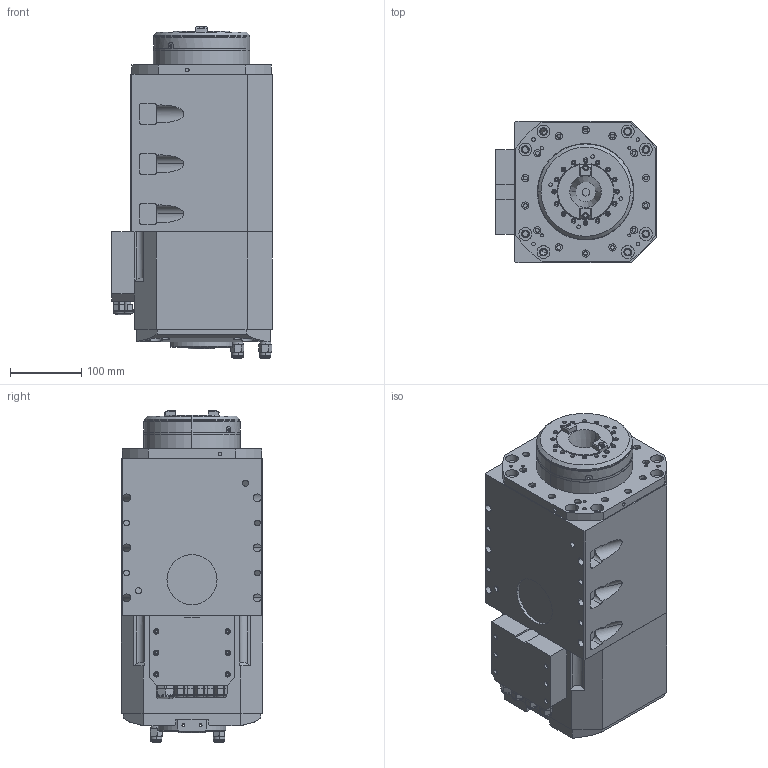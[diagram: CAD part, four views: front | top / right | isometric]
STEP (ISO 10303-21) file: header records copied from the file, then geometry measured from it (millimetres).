
FILE_DESCRIPTION (( 'STEP AP214' ), '1' );
FILE_NAME ('MBR16 - assieme - 7366P-senza convogliatore.STEP', '2014-07-24T11:58:19', ( 'Test' ), ( '' ), 'SwSTEP 2.0', 'SolidWorks 2012', '' );
FILE_SCHEMA (( 'AUTOMOTIVE_DESIGN' ));
Length unit declared in the file: millimetre
Products named in the file (1): MBR16 - assieme - 7366P-senza convogliatore
Bounding box: 225 x 198 x 464.7 mm (x, y, z)
Surface area: 504575.7 mm2 (no closed solid volume)
Topology: 0 solids, 43 shells, 890 faces, 2696 edges, 1885 vertices
Faces by surface type: cylinder 485, plane 295, cone 84, torus 26
Entity records: 42052 total; most frequent: CARTESIAN_POINT 7504, DIRECTION 5554, ORIENTED_EDGE 4502, EDGE_CURVE 2694, AXIS2_PLACEMENT_3D 2240, VERTEX_POINT 1885, CIRCLE 1349, EDGE_LOOP 1169
